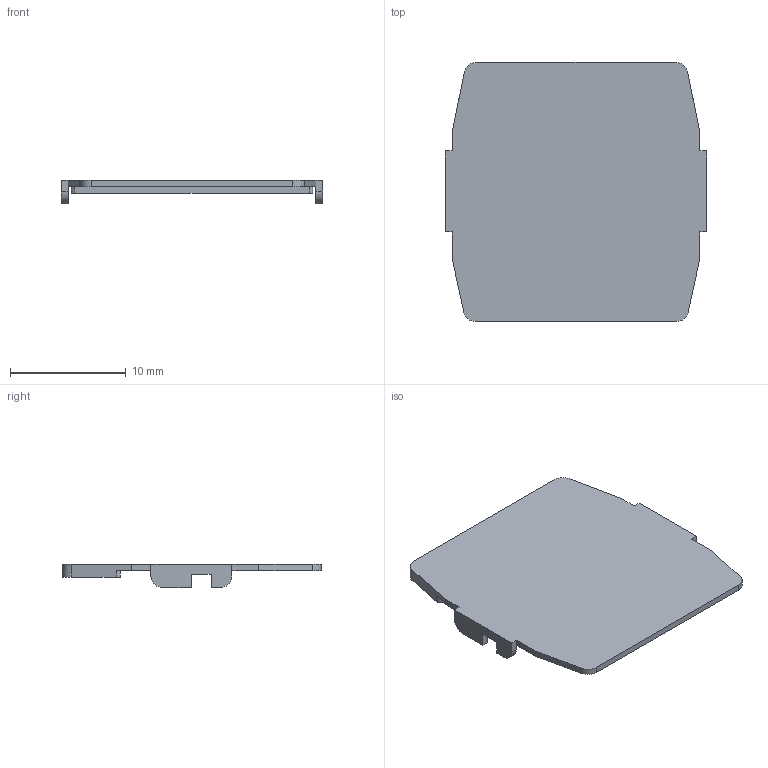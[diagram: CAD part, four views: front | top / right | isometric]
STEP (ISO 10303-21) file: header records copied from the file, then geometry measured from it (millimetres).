
FILE_DESCRIPTION((''),'2;1');
FILE_NAME('JS-K','2022-04-20T',('Administrator'),(''),'PRO/ENGINEER BY PARAMETRIC TECHNOLOGY CORPORATION, 2008020','PRO/ENGINEER BY PARAMETRIC TECHNOLOGY CORPORATION, 2008020','');
FILE_SCHEMA(('CONFIG_CONTROL_DESIGN'));
Length unit declared in the file: millimetre
Products named in the file (1): JS-K
Bounding box: 22.6 x 22.4 x 2 mm (x, y, z)
Volume: 324.5 mm3; surface area: 1056.8 mm2
Topology: 1 solids, 1 shells, 42 faces, 116 edges, 76 vertices
Faces by surface type: plane 32, cylinder 10
Entity records: 1366 total; most frequent: CARTESIAN_POINT 234, ORIENTED_EDGE 232, DIRECTION 220, EDGE_CURVE 116, VECTOR 96, LINE 96, VERTEX_POINT 76, AXIS2_PLACEMENT_3D 62
